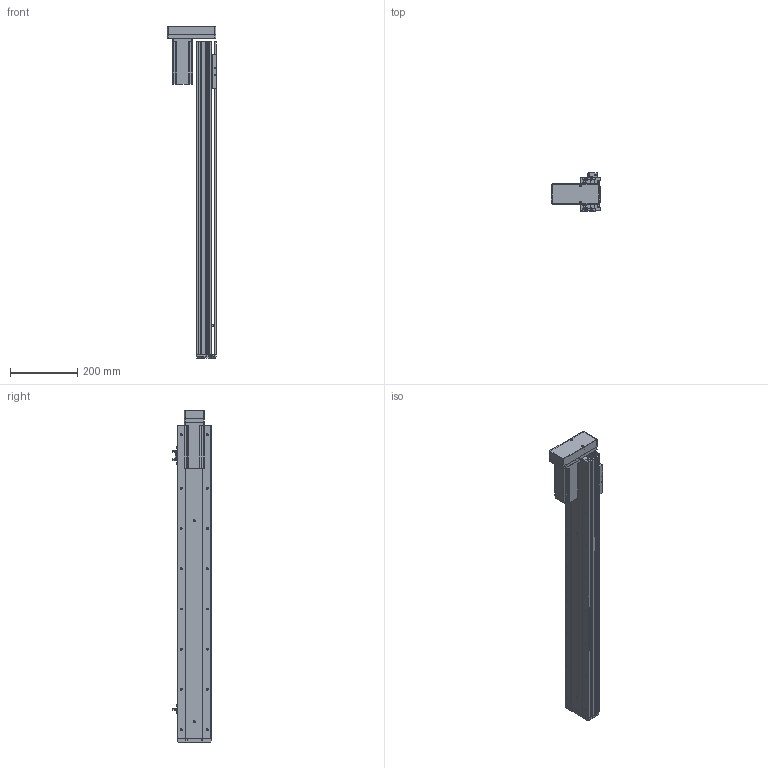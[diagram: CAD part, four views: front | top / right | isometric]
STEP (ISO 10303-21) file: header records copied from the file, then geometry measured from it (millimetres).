
FILE_DESCRIPTION (( 'STEP AP214' ), '1' );
FILE_NAME ('KSD100S-S750-MD-CM.STEP', '2019-08-30T03:37:44', ( '微软用户' ), ( '微软中国' ), 'SwSTEP 2.0', 'SolidWorks 2014', '' );
FILE_SCHEMA (( 'AUTOMOTIVE_DESIGN' ));
Length unit declared in the file: millimetre
Products named in the file (10): 台达ECMA－C20604AS伺服电机; 覜茼え100遵圉猾敕; U倰嫖萇EEㄜSX672; 100宽防尘板丝杆750行程; 100宽滚珠螺姆安装板半封闭; 100遵傷啣; 100宽底板半封闭丝杆750行程; KSD100S-S750-MD-CM; 悵誘欶奻狟殏; 100宽马达安装板连板上下折丝杆同步带
Assembly tree (11 placements, depth 2):
  KSD100S-S750-MD-CM
    100宽底板半封闭丝杆750行程
    100遵傷啣
    100宽滚珠螺姆安装板半封闭
    100宽防尘板丝杆750行程
    U倰嫖萇EEㄜSX672  x3
    覜茼え100遵圉猾敕
    台达ECMA－C20604AS伺服电机
    100宽马达安装板连板上下折丝杆同步带
    悵誘欶奻狟殏
Bounding box: 147 x 113.7 x 990.5 mm (x, y, z)
Volume: 2364471.3 mm3; surface area: 759212.7 mm2
Topology: 12 solids, 12 shells, 1215 faces, 3432 edges, 2164 vertices
Faces by surface type: cylinder 583, plane 491, cone 141
Entity records: 43196 total; most frequent: CARTESIAN_POINT 8303, DIRECTION 5677, ORIENTED_EDGE 5488, EDGE_CURVE 2744, AXIS2_PLACEMENT_3D 2054, VERTEX_POINT 1788, LINE 1569, VECTOR 1569
